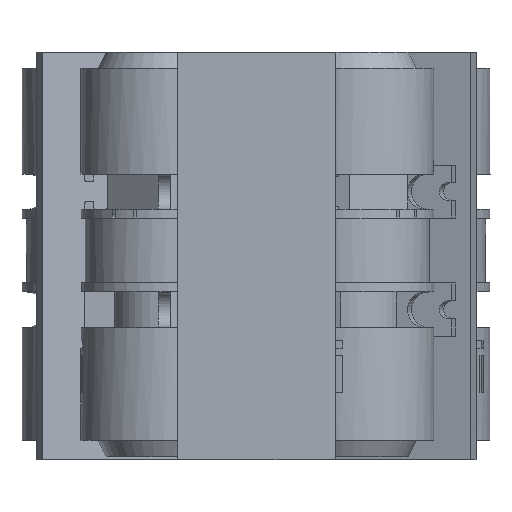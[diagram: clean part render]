
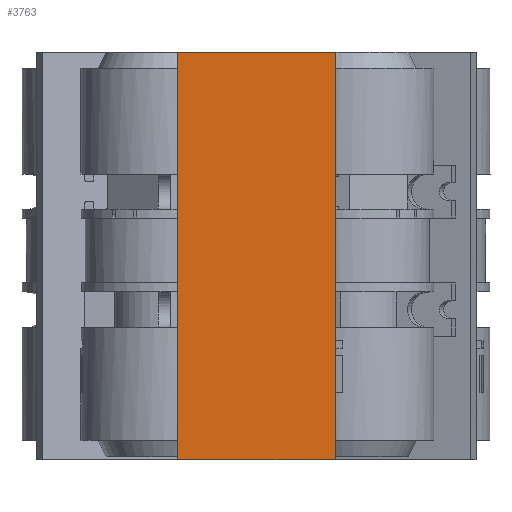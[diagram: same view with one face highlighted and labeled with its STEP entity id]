
A CAD part, front view. The second image highlights one B-rep face of the part: STEP entity #3763.
In plain terms, the highlighted planar face has unit normal (0, -1, 0) as drawn and (0, 0, 1) by its records, which use the part's own axes.
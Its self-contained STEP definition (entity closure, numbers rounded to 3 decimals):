
#187=PLANE('',#4122);
#395=FACE_OUTER_BOUND('',#603,.T.);
#603=EDGE_LOOP('',(#3436,#3437,#3438,#3439));
#980=LINE('',#6251,#1388);
#983=LINE('',#6257,#1391);
#985=LINE('',#6260,#1393);
#986=LINE('',#6261,#1394);
#1388=VECTOR('',#5137,10.);
#1391=VECTOR('',#5142,10.);
#1393=VECTOR('',#5146,10.);
#1394=VECTOR('',#5147,10.);
#1884=VERTEX_POINT('',#6248);
#1885=VERTEX_POINT('',#6250);
#1886=VERTEX_POINT('',#6254);
#1887=VERTEX_POINT('',#6256);
#2406=EDGE_CURVE('',#1885,#1884,#980,.T.);
#2409=EDGE_CURVE('',#1887,#1886,#983,.T.);
#2411=EDGE_CURVE('',#1884,#1887,#985,.T.);
#2412=EDGE_CURVE('',#1886,#1885,#986,.T.);
#3436=ORIENTED_EDGE('',*,*,#2411,.T.);
#3437=ORIENTED_EDGE('',*,*,#2409,.T.);
#3438=ORIENTED_EDGE('',*,*,#2412,.T.);
#3439=ORIENTED_EDGE('',*,*,#2406,.T.);
#3763=ADVANCED_FACE('',(#395),#187,.T.);
#4122=AXIS2_PLACEMENT_3D('',#6259,#5144,#5145);
#5137=DIRECTION('',(0.,-1.,0.));
#5142=DIRECTION('',(0.,1.,0.));
#5144=DIRECTION('center_axis',(0.,0.,1.));
#5145=DIRECTION('ref_axis',(1.,0.,0.));
#5146=DIRECTION('',(1.,0.,0.));
#5147=DIRECTION('',(-1.,0.,0.));
#6248=CARTESIAN_POINT('',(-4.5,0.,14.));
#6250=CARTESIAN_POINT('',(-4.5,23.2,14.));
#6251=CARTESIAN_POINT('',(-4.5,0.,14.));
#6254=CARTESIAN_POINT('',(4.5,23.2,14.));
#6256=CARTESIAN_POINT('',(4.5,0.,14.));
#6257=CARTESIAN_POINT('',(4.5,23.2,14.));
#6259=CARTESIAN_POINT('Origin',(0.,11.6,14.));
#6260=CARTESIAN_POINT('',(4.5,0.,14.));
#6261=CARTESIAN_POINT('',(-4.5,23.2,14.));
